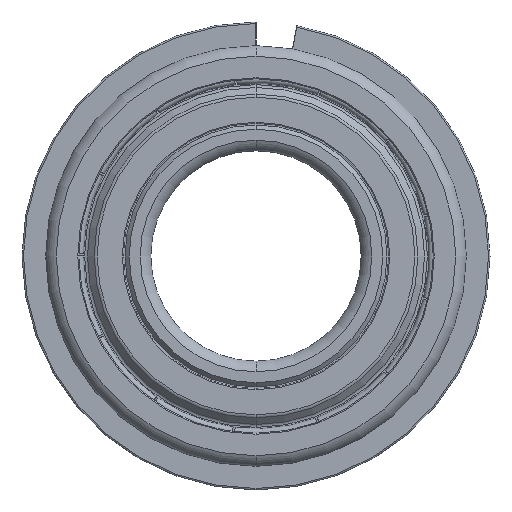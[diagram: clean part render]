
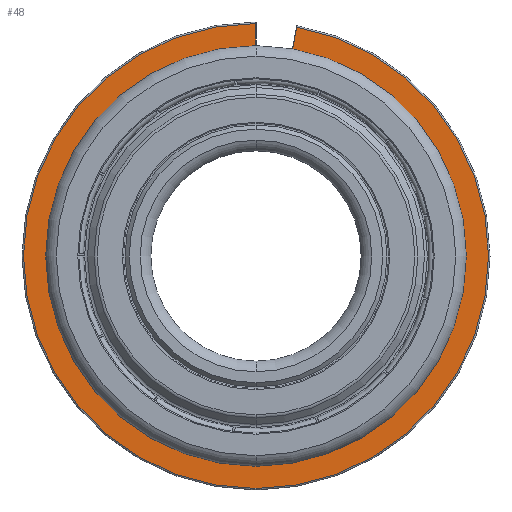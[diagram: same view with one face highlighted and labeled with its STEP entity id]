
A CAD part, front view. The second image highlights one B-rep face of the part: STEP entity #48.
In plain terms, the highlighted planar face has unit normal (0, -1, 0).
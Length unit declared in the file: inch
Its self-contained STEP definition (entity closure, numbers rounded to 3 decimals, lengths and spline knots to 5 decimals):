
#48 = ADVANCED_FACE ( 'NONE', ( #1210 ), #5107, .F. ) ;
#101 = ORIENTED_EDGE ( 'NONE', *, *, #1236, .T. ) ;
#113 = CARTESIAN_POINT ( 'NONE',  ( 0.19295, 0., 1.08853 ) ) ;
#136 = VERTEX_POINT ( 'NONE', #4201 ) ;
#291 = DIRECTION ( 'NONE',  ( 0., 1., 0. ) ) ;
#483 = EDGE_LOOP ( 'NONE', ( #101, #2302, #5266, #4540, #1817, #3228 ) ) ;
#825 = CARTESIAN_POINT ( 'NONE',  ( 0., 0., 0. ) ) ;
#1053 = AXIS2_PLACEMENT_3D ( 'NONE', #4234, #4255, #4687 ) ;
#1096 = VECTOR ( 'NONE', #2497, 39.37008 ) ;
#1146 = CARTESIAN_POINT ( 'NONE',  ( -0.001, 0., 0. ) ) ;
#1210 = FACE_OUTER_BOUND ( 'NONE', #483, .T. ) ;
#1236 = EDGE_CURVE ( 'NONE', #2079, #136, #2886, .T. ) ;
#1411 = CIRCLE ( 'NONE', #3842, 0.9825 ) ;
#1598 = AXIS2_PLACEMENT_3D ( 'NONE', #825, #4437, #2518 ) ;
#1617 = LINE ( 'NONE', #5607, #1096 ) ;
#1817 = ORIENTED_EDGE ( 'NONE', *, *, #3558, .T. ) ;
#2079 = VERTEX_POINT ( 'NONE', #2772 ) ;
#2302 = ORIENTED_EDGE ( 'NONE', *, *, #4557, .T. ) ;
#2484 = CARTESIAN_POINT ( 'NONE',  ( 0., 0., 0. ) ) ;
#2497 = DIRECTION ( 'NONE',  ( -0.174, 0., -0.985 ) ) ;
#2518 = DIRECTION ( 'NONE',  ( 0., 0., 1. ) ) ;
#2598 = CARTESIAN_POINT ( 'NONE',  ( 0., 0., -0.9825 ) ) ;
#2772 = CARTESIAN_POINT ( 'NONE',  ( -0.001, 0., 1.1055 ) ) ;
#2864 = EDGE_CURVE ( 'NONE', #5487, #2079, #5403, .T. ) ;
#2869 = EDGE_CURVE ( 'NONE', #4432, #4793, #5818, .T. ) ;
#2886 = CIRCLE ( 'NONE', #1053, 1.1055 ) ;
#2963 = DIRECTION ( 'NONE',  ( 0., 0., 1. ) ) ;
#3043 = DIRECTION ( 'NONE',  ( 0., -1., 0. ) ) ;
#3157 = VECTOR ( 'NONE', #3429, 39.37008 ) ;
#3228 = ORIENTED_EDGE ( 'NONE', *, *, #2864, .T. ) ;
#3429 = DIRECTION ( 'NONE',  ( 0., 0., 1. ) ) ;
#3541 = DIRECTION ( 'NONE',  ( 0., 0., 1. ) ) ;
#3558 = EDGE_CURVE ( 'NONE', #4793, #5487, #1411, .T. ) ;
#3834 = DIRECTION ( 'NONE',  ( 0., 0., 1. ) ) ;
#3842 = AXIS2_PLACEMENT_3D ( 'NONE', #4835, #291, #3541 ) ;
#3846 = CARTESIAN_POINT ( 'NONE',  ( 0.17159, 0., 0.9674 ) ) ;
#4201 = CARTESIAN_POINT ( 'NONE',  ( 0., 0., -1.1055 ) ) ;
#4234 = CARTESIAN_POINT ( 'NONE',  ( 0., 0., 0. ) ) ;
#4255 = DIRECTION ( 'NONE',  ( 0., -1., 0. ) ) ;
#4432 = VERTEX_POINT ( 'NONE', #3846 ) ;
#4437 = DIRECTION ( 'NONE',  ( 0., 1., 0. ) ) ;
#4540 = ORIENTED_EDGE ( 'NONE', *, *, #2869, .T. ) ;
#4557 = EDGE_CURVE ( 'NONE', #136, #5583, #5015, .T. ) ;
#4601 = AXIS2_PLACEMENT_3D ( 'NONE', #4653, #4690, #3834 ) ;
#4653 = CARTESIAN_POINT ( 'NONE',  ( 0., 0., 0. ) ) ;
#4687 = DIRECTION ( 'NONE',  ( 0., 0., 1. ) ) ;
#4690 = DIRECTION ( 'NONE',  ( 0., 1., 0. ) ) ;
#4793 = VERTEX_POINT ( 'NONE', #2598 ) ;
#4835 = CARTESIAN_POINT ( 'NONE',  ( 0., 0., 0. ) ) ;
#5015 = CIRCLE ( 'NONE', #5176, 1.1055 ) ;
#5107 = PLANE ( 'NONE',  #4601 ) ;
#5176 = AXIS2_PLACEMENT_3D ( 'NONE', #2484, #3043, #2963 ) ;
#5266 = ORIENTED_EDGE ( 'NONE', *, *, #5774, .T. ) ;
#5403 = LINE ( 'NONE', #1146, #3157 ) ;
#5475 = CARTESIAN_POINT ( 'NONE',  ( -0.001, 0., 0.9825 ) ) ;
#5487 = VERTEX_POINT ( 'NONE', #5475 ) ;
#5583 = VERTEX_POINT ( 'NONE', #113 ) ;
#5607 = CARTESIAN_POINT ( 'NONE',  ( 0.00098, 0., -0.00017 ) ) ;
#5774 = EDGE_CURVE ( 'NONE', #5583, #4432, #1617, .T. ) ;
#5818 = CIRCLE ( 'NONE', #1598, 0.9825 ) ;
